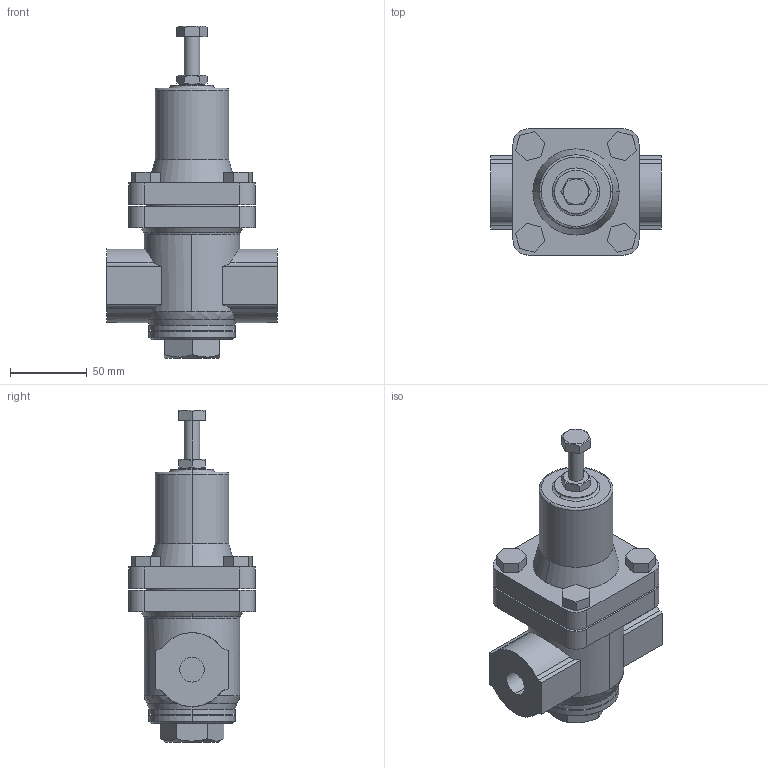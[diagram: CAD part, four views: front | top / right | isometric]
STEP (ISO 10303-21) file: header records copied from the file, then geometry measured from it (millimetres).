
FILE_DESCRIPTION( (''), '2;1');
FILE_NAME ('PC1276.4376.GD-45 15A_13884.stp','2025-12-10T13:01:38',(''),(''),'spGate 20.6.3 (****-****-****-****)','','');
FILE_SCHEMA (('AUTOMOTIVE_DESIGN'));
Length unit declared in the file: millimetre
Bounding box: 111 x 82 x 215.67 mm (x, y, z)
Volume: 631956.8 mm3; surface area: 71176.7 mm2
Topology: 1 solids, 1 shells, 150 faces, 375 edges, 245 vertices
Faces by surface type: plane 84, cylinder 42, bspline 24
Entity records: 8054 total; most frequent: CARTESIAN_POINT 1694, ORIENTED_EDGE 750, DIRECTION 618, COLOUR_RGB 526, PRESENTATION_STYLE_ASSIGNMENT 526, STYLED_ITEM 526, EDGE_CURVE 375, DRAUGHTING_PRE_DEFINED_CURVE_FONT 375
